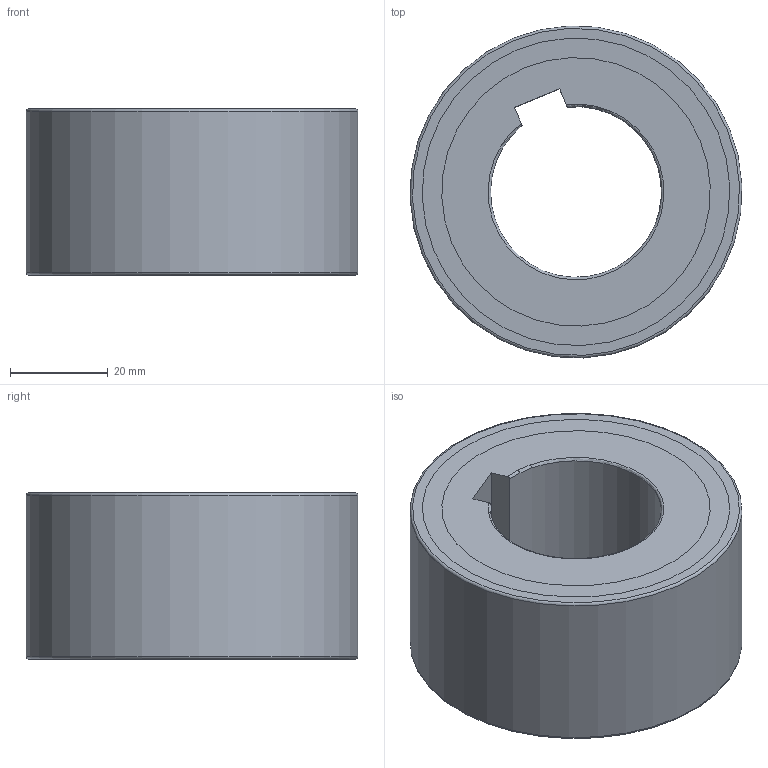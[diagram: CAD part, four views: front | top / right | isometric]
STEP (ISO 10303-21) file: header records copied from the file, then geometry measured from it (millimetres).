
FILE_DESCRIPTION(/* description */ (''),/* implementation_level */ '2;1');
FILE_NAME(/* name */ '306528 FND 463 M.stp',/* time_stamp */ '2016-11-17T10:04:21+01:00',/* author */ (''),/* organization */ (''),/* preprocessor_version */ 'ST-DEVELOPER v15',/* originating_system */ 'SIEMENS PLM Software NX 8.5',/* authorisation */ '');
FILE_SCHEMA (('CONFIG_CONTROL_DESIGN'));
Length unit declared in the file: millimetre
Products named in the file (3): ATE0000080_01; ATE0000091_01; ATE0000092_01
Assembly tree (2 placements, depth 2):
  ATE0000092_01
    ATE0000091_01
    ATE0000080_01
Bounding box: 67.93 x 67.93 x 34 mm (x, y, z)
Volume: 79949.4 mm3; surface area: 42904.2 mm2
Topology: 5 solids, 5 shells, 79 faces, 173 edges, 114 vertices
Faces by surface type: plane 49, cylinder 24, torus 6
Full cylindrical faces by diameter (mm): 55 x5, 59 x1, 61 x1, 62 x2, 63 x5, 68 x1
Entity records: 2408 total; most frequent: CARTESIAN_POINT 408, DIRECTION 374, ORIENTED_EDGE 292, AXIS2_PLACEMENT_3D 150, EDGE_CURVE 146, EDGE_LOOP 120, VERTEX_POINT 108, ADVANCED_FACE 79
